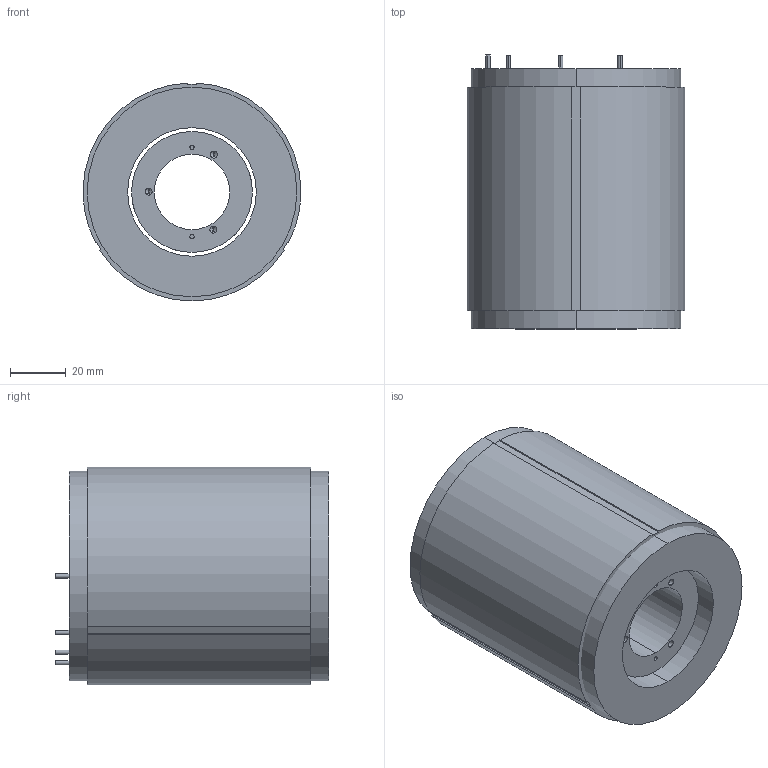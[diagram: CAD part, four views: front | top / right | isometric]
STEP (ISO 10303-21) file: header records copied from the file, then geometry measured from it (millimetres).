
FILE_DESCRIPTION (( 'STEP AP203' ), '1' );
FILE_NAME ('TMXSL78-92 KIT 3D.STEP', '2021-06-19T07:17:04', ( '' ), ( '' ), 'SwSTEP 2.0', 'SolidWorks 2021', '' );
FILE_SCHEMA (( 'CONFIG_CONTROL_DESIGN' ));
Length unit declared in the file: millimetre
Products named in the file (1): TMXSL78-92 KIT 3D
Bounding box: 77.99 x 98 x 77.97 mm (x, y, z)
Volume: 389820 mm3; surface area: 101541.6 mm2
Topology: 3 solids, 3 shells, 158 faces, 402 edges, 258 vertices
Faces by surface type: cylinder 87, plane 59, cone 12
Entity records: 4837 total; most frequent: DIRECTION 894, CARTESIAN_POINT 807, ORIENTED_EDGE 780, EDGE_CURVE 390, AXIS2_PLACEMENT_3D 345, VERTEX_POINT 258, VECTOR 204, LINE 204
